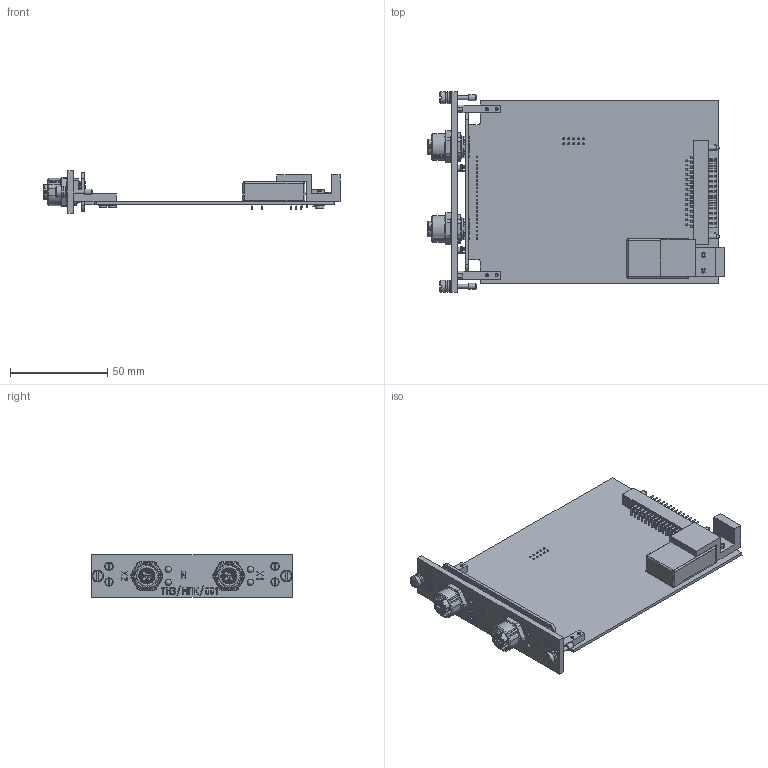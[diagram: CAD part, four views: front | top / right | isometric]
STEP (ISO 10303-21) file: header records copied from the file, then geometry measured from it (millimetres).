
FILE_DESCRIPTION(('STEP AP203'), '1');
FILE_NAME('帎迗.468153.013 沓劌錪 眝3_昑佤001', '', ('UNSPECIFIED'), ('UNSPECIFIED'), 'C3D Converter', 'C3D Toolkit', '');
FILE_SCHEMA(('CONFIG_CONTROL_DESIGN'));
Length unit declared in the file: millimetre
Products named in the file (1): КМНТ.468153.013
Bounding box: 152.44 x 103 x 21.7 mm (x, y, z)
Volume: 38000.8 mm3; surface area: 49111.2 mm2
Topology: 14 solids, 14 shells, 2614 faces, 6940 edges, 4473 vertices
Faces by surface type: cylinder 1211, plane 979, torus 201, sphere 92, bspline 73, cone 54, extrusion 4
Full cylindrical faces by diameter (mm): 0.217 x2, 0.5 x9, 0.6 x97, 0.7 x16, 0.8 x89, 0.9 x16, 1 x61, 1.1 x6, 1.24 x16, 1.567 x6, 1.6 x2, 2 x2, 2.4 x4, 2.459 x2, 2.49 x2, 2.5 x5, 2.7 x4, 3 x6, 3.2 x2, 3.3 x4, 3.4 x4, 3.5 x4, 3.8 x8, 4.3 x4, 4.5 x6, 5 x2, 6 x6, 8.25 x2, 10.4 x2, 11 x2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
Entity records: 115673 total; most frequent: CARTESIAN_POINT 31074, DIRECTION 13321, ORIENTED_EDGE 12500, EDGE_CURVE 6250, AXIS2_PLACEMENT_3D 5217, VERTEX_POINT 4444, EDGE_LOOP 3742, FACE_BOUND 2954
